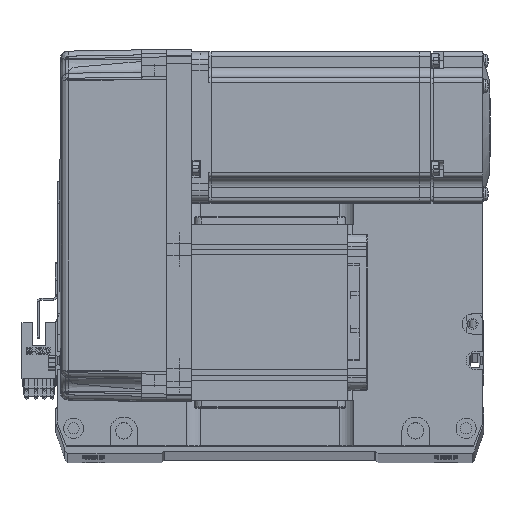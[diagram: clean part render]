
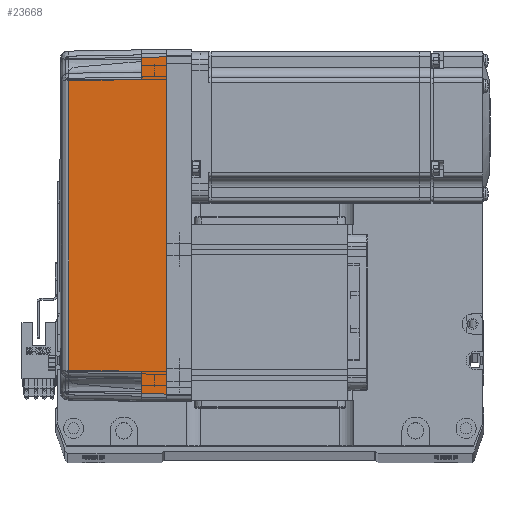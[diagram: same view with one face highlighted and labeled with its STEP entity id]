
A CAD part, top view. The second image highlights one B-rep face of the part: STEP entity #23668.
In plain terms, the highlighted planar face has unit normal (-0.018, 0, 1) as drawn and (0, 1, 0.017) by its records, which use the part's own axes.
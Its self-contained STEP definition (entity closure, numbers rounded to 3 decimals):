
#442 = ORIENTED_EDGE ( 'NONE', *, *, #44285, .T. ) ;
#1402 = LINE ( 'NONE', #7997, #54809 ) ;
#5577 = VERTEX_POINT ( 'NONE', #26795 ) ;
#6152 = VECTOR ( 'NONE', #50151, 1000. ) ;
#6650 = CARTESIAN_POINT ( 'NONE',  ( -57.495, 35.32, 38.985 ) ) ;
#7614 = CARTESIAN_POINT ( 'NONE',  ( 19.165, 35.316, 39.181 ) ) ;
#7997 = CARTESIAN_POINT ( 'NONE',  ( -58., 35.825, 10. ) ) ;
#8429 = DIRECTION ( 'NONE',  ( 0.017, -0.017, 1. ) ) ;
#10268 = CARTESIAN_POINT ( 'NONE',  ( -58., 35.825, 10. ) ) ;
#10704 = EDGE_CURVE ( 'NONE', #27493, #30318, #20081, .T. ) ;
#11965 = VERTEX_POINT ( 'NONE', #10268 ) ;
#12077 = VECTOR ( 'NONE', #14900, 1000. ) ;
#12351 = CARTESIAN_POINT ( 'NONE',  ( -57.495, 35.32, 38.985 ) ) ;
#13463 = ORIENTED_EDGE ( 'NONE', *, *, #34400, .T. ) ;
#13952 = VERTEX_POINT ( 'NONE', #58237 ) ;
#14900 = DIRECTION ( 'NONE',  ( 1., 0., 0. ) ) ;
#15993 = VERTEX_POINT ( 'NONE', #63095 ) ;
#17643 = DIRECTION ( 'NONE',  ( 1., 0., 0. ) ) ;
#19138 = ORIENTED_EDGE ( 'NONE', *, *, #10704, .T. ) ;
#19858 = ORIENTED_EDGE ( 'NONE', *, *, #62726, .T. ) ;
#19960 = LINE ( 'NONE', #35825, #26340 ) ;
#20081 = B_SPLINE_CURVE_WITH_KNOTS ( 'NONE', 3,
 ( #12351, #53268, #7614, #38322 ),
 .UNSPECIFIED., .F., .F.,
 ( 4, 4 ),
 ( 0., 1. ),
 .UNSPECIFIED. ) ;
#21136 = VERTEX_POINT ( 'NONE', #50089 ) ;
#21210 = DIRECTION ( 'NONE',  ( -0.017, -0.017, 1. ) ) ;
#23668 = ADVANCED_FACE ( 'NONE', ( #66488 ), #53032, .T. ) ;
#23749 = DIRECTION ( 'NONE',  ( 1., 0., 0. ) ) ;
#25822 = EDGE_CURVE ( 'NONE', #21136, #11965, #59934, .T. ) ;
#26012 = VERTEX_POINT ( 'NONE', #60033 ) ;
#26340 = VECTOR ( 'NONE', #46879, 1000. ) ;
#26795 = CARTESIAN_POINT ( 'NONE',  ( 58., 35.825, 10. ) ) ;
#27493 = VERTEX_POINT ( 'NONE', #6650 ) ;
#28478 = EDGE_CURVE ( 'NONE', #13952, #15993, #54783, .T. ) ;
#30318 = VERTEX_POINT ( 'NONE', #61065 ) ;
#31767 = CARTESIAN_POINT ( 'NONE',  ( 70., 36., 0. ) ) ;
#32634 = ORIENTED_EDGE ( 'NONE', *, *, #60362, .F. ) ;
#34400 = EDGE_CURVE ( 'NONE', #5577, #15993, #59787, .T. ) ;
#35308 = LINE ( 'NONE', #40204, #6152 ) ;
#35794 = AXIS2_PLACEMENT_3D ( 'NONE', #31767, #42410, #57974 ) ;
#35825 = CARTESIAN_POINT ( 'NONE',  ( -67., 36., 0. ) ) ;
#38322 = CARTESIAN_POINT ( 'NONE',  ( 57.495, 35.32, 38.985 ) ) ;
#40204 = CARTESIAN_POINT ( 'NONE',  ( 57.495, 35.32, 38.985 ) ) ;
#40505 = VECTOR ( 'NONE', #23749, 1000. ) ;
#40529 = EDGE_CURVE ( 'NONE', #26012, #21136, #19960, .T. ) ;
#42410 = DIRECTION ( 'NONE',  ( 0., 1., 0.017 ) ) ;
#44285 = EDGE_CURVE ( 'NONE', #11965, #27493, #1402, .T. ) ;
#46228 = VECTOR ( 'NONE', #17643, 1000. ) ;
#46640 = ORIENTED_EDGE ( 'NONE', *, *, #40529, .T. ) ;
#46879 = DIRECTION ( 'NONE',  ( 0.017, -0.017, 1. ) ) ;
#47358 = ORIENTED_EDGE ( 'NONE', *, *, #25822, .T. ) ;
#47862 = CARTESIAN_POINT ( 'NONE',  ( 67.001, 36.001, -0.052 ) ) ;
#50089 = CARTESIAN_POINT ( 'NONE',  ( -66.826, 35.825, 10. ) ) ;
#50151 = DIRECTION ( 'NONE',  ( 0.017, 0.017, -1. ) ) ;
#51244 = CARTESIAN_POINT ( 'NONE',  ( 70., 35.825, 10. ) ) ;
#52364 = VECTOR ( 'NONE', #21210, 1000. ) ;
#53032 = PLANE ( 'NONE',  #35794 ) ;
#53268 = CARTESIAN_POINT ( 'NONE',  ( -19.165, 35.316, 39.181 ) ) ;
#54783 = LINE ( 'NONE', #47862, #52364 ) ;
#54809 = VECTOR ( 'NONE', #8429, 1000. ) ;
#57402 = LINE ( 'NONE', #59676, #40505 ) ;
#57974 = DIRECTION ( 'NONE',  ( 0., -0.017, 1. ) ) ;
#58237 = CARTESIAN_POINT ( 'NONE',  ( 67., 36., 0. ) ) ;
#58670 = EDGE_LOOP ( 'NONE', ( #46640, #47358, #442, #19138, #19858, #13463, #61184, #32634 ) ) ;
#58963 = CARTESIAN_POINT ( 'NONE',  ( 70., 35.825, 10. ) ) ;
#59676 = CARTESIAN_POINT ( 'NONE',  ( 0., 36., 0. ) ) ;
#59787 = LINE ( 'NONE', #51244, #12077 ) ;
#59934 = LINE ( 'NONE', #58963, #46228 ) ;
#60033 = CARTESIAN_POINT ( 'NONE',  ( -67., 36., 0. ) ) ;
#60362 = EDGE_CURVE ( 'NONE', #26012, #13952, #57402, .T. ) ;
#61065 = CARTESIAN_POINT ( 'NONE',  ( 57.495, 35.32, 38.985 ) ) ;
#61184 = ORIENTED_EDGE ( 'NONE', *, *, #28478, .F. ) ;
#62726 = EDGE_CURVE ( 'NONE', #30318, #5577, #35308, .T. ) ;
#63095 = CARTESIAN_POINT ( 'NONE',  ( 66.826, 35.825, 10. ) ) ;
#66488 = FACE_OUTER_BOUND ( 'NONE', #58670, .T. ) ;
